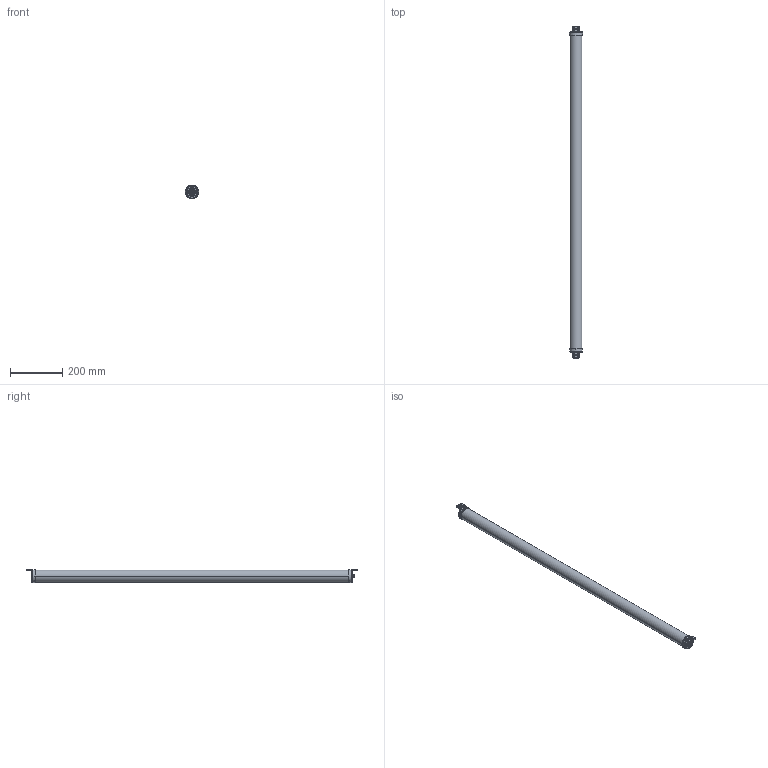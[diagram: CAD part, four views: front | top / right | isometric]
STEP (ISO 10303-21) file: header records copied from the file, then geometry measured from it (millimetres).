
FILE_DESCRIPTION((''),'2;1');
FILE_NAME('ESF_ASM','2024-01-10T15:13:34',('18565748720'),(''),'CREO PARAMETRIC BY PTC INC, 2022164','CREO PARAMETRIC BY PTC INC, 2022164','');
FILE_SCHEMA(('CONFIG_CONTROL_DESIGN'));
Length unit declared in the file: millimetre
Products named in the file (14): ESF-122000; ESF-1220000; 000; ST-3-18; M4--0001; 0002; ESF--00; M4-8; 000_ASM; M12--50001; M120001; ESF_ASM
Assembly tree (28 placements, depth 3):
  ESF_ASM
    ESF-122000
    ESF-1220000
    000_ASM
      000
      ST-3-18  x4
      M4--0001  x2
      0002
      ESF--00
      M4-8  x2
    000_ASM
      000
      ST-3-18  x4
      M4--0001  x2
      M12--50001
      0002
      M120001
      ESF--00
      M4-8  x2
Bounding box: 50.62 x 1273.09 x 50.8 mm (x, y, z)
Volume: 1432483.5 mm3; surface area: 574709.8 mm2
Topology: 46 solids, 52 shells, 3042 faces, 8339 edges, 5434 vertices
Faces by surface type: cylinder 1880, cone 412, plane 388, bspline 274, torus 84, revolution 4
Entity records: 48323 total; most frequent: CARTESIAN_POINT 22355, DIRECTION 5709, ORIENTED_EDGE 5284, EDGE_CURVE 2642, AXIS2_PLACEMENT_3D 2360, VERTEX_POINT 1735, CIRCLE 1334, EDGE_LOOP 1103
